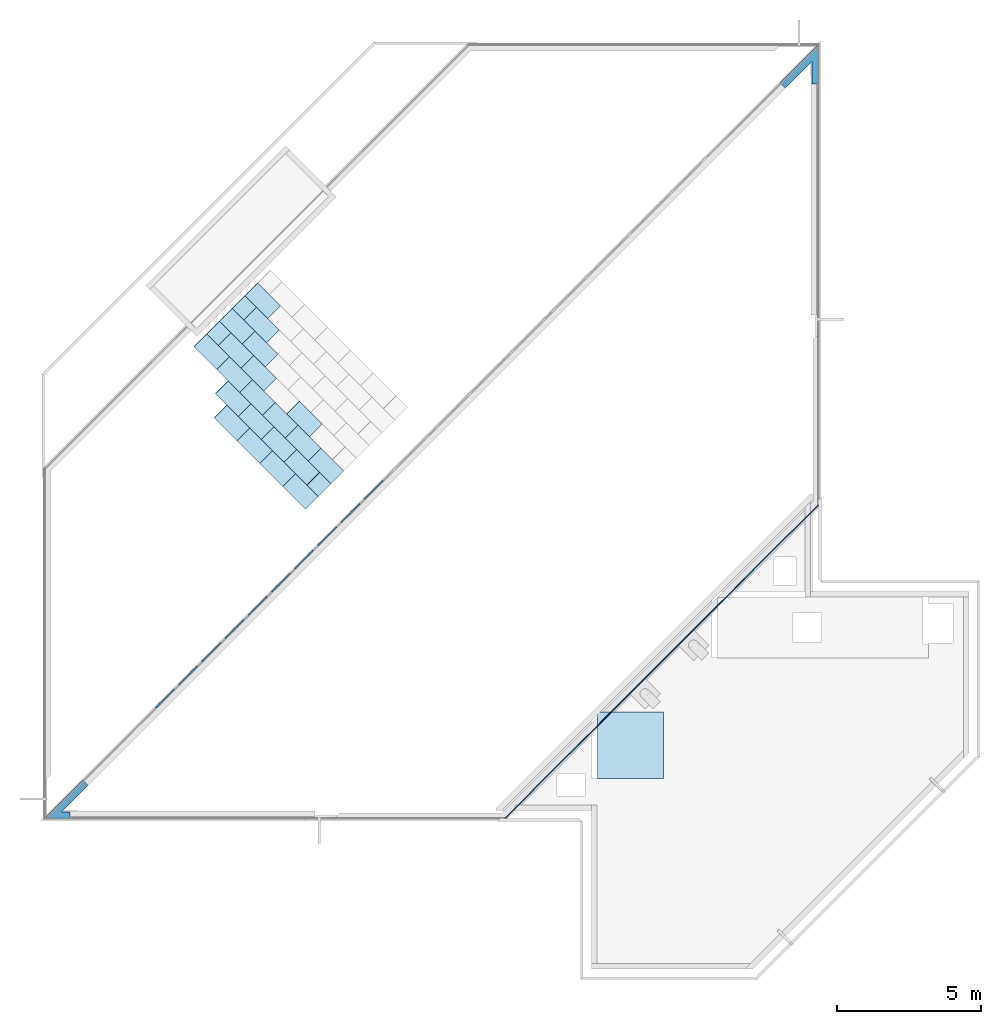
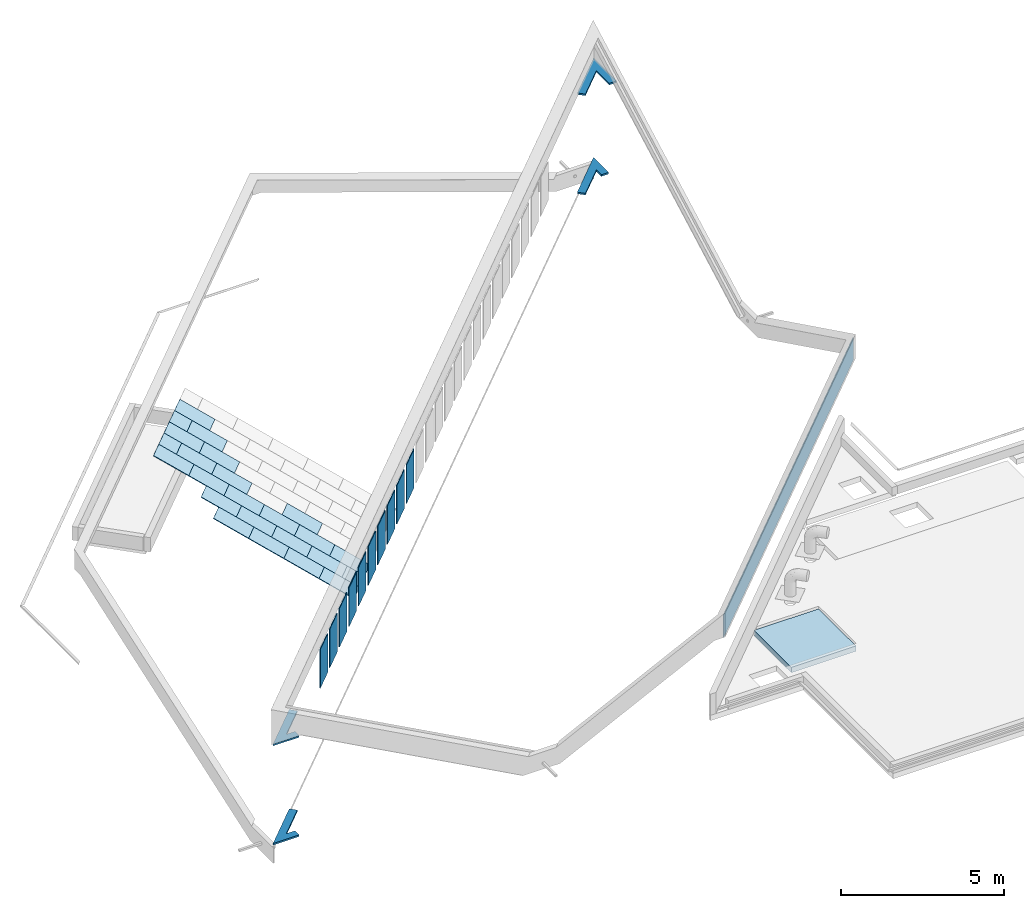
# One storey, part 1 of 8: 25 slabs, 11 plates, 2 members, 24 elements without a shape of their own.
"""IFC4X3_ADD2 building model written with IfcOpenShell, lengths in millimetres."""

from ifc_helpers import new_model, si_unit, direction, frame, frame_2d, origin_with_axes, place, context, subcontext, project, spatial, polyline, rectangle, outline, extrude, source, transform, mapped, material, type_object, type_shapes, element, aggregate, save


model = new_model("IFC4X3_ADD2")

# Units and contexts
model_context = context("Model", 3, precision=1e-05, world=origin_with_axes(), true_north=direction((0.0, 1.0)))
body_context = subcontext(model_context, "Body", "Model", "MODEL_VIEW")
ifc_project = project(units=[si_unit("LENGTHUNIT", "METRE", prefix="MILLI"), si_unit("AREAUNIT", "SQUARE_METRE"), si_unit("VOLUMEUNIT", "CUBIC_METRE"), si_unit("PLANEANGLEUNIT", "RADIAN"), si_unit("TIMEUNIT", "SECOND"), si_unit("MASSUNIT", "GRAM")], contexts=[model_context])

# Site, building, storey
site_placement = place(None, origin_with_axes())
site = spatial("IfcSite", under=ifc_project, at=site_placement, Name="Site", CompositionType="ELEMENT")
building_placement = place(site_placement, origin_with_axes())
building = spatial("IfcBuilding", under=site, at=building_placement, Name="IFC Building Story")
storey_placement = place(building_placement, frame((0.0, 0.0, 17050.0), z_axis=(0.0, 0.0, 1.0), x_axis=(1.0, 0.0, 0.0)))
storey = spatial("IfcBuildingStorey", under=building, at=storey_placement, Name="050", Elevation=17050.0)

# Members
ifc_material_1 = material(Name="BB_Schrijnwerk_Aluminium")
member_type_1 = type_object("IfcMemberType", Name="BB_Shed_Hoek02_BB_Shed_Hoek02", PredefinedType="NOTDEFINED")
shared_shape_1 = source(origin_with_axes(), body_context, "Body", "SweptSolid", [
    extrude(outline(polyline([(-901.3852176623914, -511.8379701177), (466.3454674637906, 855.892715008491), (648.7790170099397, 673.45916546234), (-277.5181185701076, -252.8379701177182), (31.88942587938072, -252.83797011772), (31.88942587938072, -511.8379701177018), (-901.3852176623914, -511.8379701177)])), frame((-38231.8894258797, 12701.8505894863, 21548.0), z_axis=(0.0, 0.0, 1.0), x_axis=(1.0, 0.0, 0.0)), (0.0, 0.0, 1.0), 61.9999999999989),
    extrude(outline(polyline([(-901.7387710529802, -511.7201189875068), (465.9919140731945, 856.0105661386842), (649.1325704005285, 672.8699098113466), (-276.4574583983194, -252.7201189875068), (31.53587248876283, -252.7201189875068), (31.53587248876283, -511.7201189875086), (-901.7387710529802, -511.7201189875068)])), frame((-38231.53587248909, 12701.7327383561, 17820.0), z_axis=(0.0, 0.0, 1.0), x_axis=(1.0, 0.0, 0.0)), (0.0, 0.0, 1.0), 62.0000000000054),
])
type_shapes(member_type_1, [shared_shape_1])
member_1_placement = place(storey_placement, frame((0.0, 0.0, -17050.0), z_axis=(0.0, 0.0, 1.0), x_axis=(1.0, 0.0, 0.0)))
element("IfcMember", 1, at=member_1_placement, inside=storey, type_object=member_type_1, material=ifc_material_1, Name="BB_Shed_Hoek02:BB_Shed_Hoek02", ObjectType="BB_Shed_Hoek02:BB_Shed_Hoek02", PredefinedType="MULLION", context=body_context, shape_type="MappedRepresentation", body=[
    mapped(shared_shape_1, transform((0.0, 0.0, 0.0))),
])
member_type_2 = type_object("IfcMemberType", Name="BB_Shed_Hoek1_BB_Shed_Hoek02", PredefinedType="NOTDEFINED")
shared_shape_2 = source(origin_with_axes(), body_context, "Body", "SweptSolid", [
    extrude(outline(polyline([(511.83797011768, -351.8894258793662), (252.8379701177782, -351.8894258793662), (252.8379701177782, 437.5181185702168), (-673.4591654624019, -488.7790170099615), (-855.892715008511, -306.3454674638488), (511.83797011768, 1061.385217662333), (511.83797011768, -351.8894258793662)])), frame((-12701.8505894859, 38071.8894258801, 21548.0), z_axis=(0.0, 0.0, 1.0), x_axis=(1.0, 0.0, 0.0)), (0.0, 0.0, 1.0), 61.99999999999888),
    extrude(outline(polyline([(511.7201189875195, -31.53587248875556), (252.7201189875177, -31.53587248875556), (252.7201189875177, 276.4574583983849), (-672.869909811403, -649.1325704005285), (-856.0105661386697, -465.99191407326), (511.7201189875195, 901.7387710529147), (511.7201189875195, -31.53587248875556)])), frame((-12701.7327383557, 38231.5358724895, 17820.0), z_axis=(0.0, 0.0, 1.0), x_axis=(1.0, 0.0, 0.0)), (0.0, 0.0, 1.0), 62.0000000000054),
])
type_shapes(member_type_2, [shared_shape_2])
member_2_placement = place(storey_placement, frame((0.0, 0.0, -17050.0), z_axis=(0.0, 0.0, 1.0), x_axis=(1.0, 0.0, 0.0)))
element("IfcMember", 2, at=member_2_placement, inside=storey, type_object=member_type_2, material=ifc_material_1, Name="BB_Shed_Hoek1:BB_Shed_Hoek02", ObjectType="BB_Shed_Hoek1:BB_Shed_Hoek02", PredefinedType="MULLION", context=body_context, shape_type="MappedRepresentation", body=[
    mapped(shared_shape_2, transform((0.0, 0.0, 0.0))),
])

# Slab
ifc_material_2 = material(Name="BB_Beton_Bestaand")
slab_type = type_object("IfcSlabType", Name="BB_Beton_Bestaand 200", PredefinedType="FLOOR", material=ifc_material_2)
slab_1_placement = place(storey_placement, frame((-19899.99999999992, 15914.99999999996, -350.0), z_axis=(0.0, 0.0, 1.0), x_axis=(0.0, -1.0, 0.0)))
element("IfcSlab", 3, at=slab_1_placement, inside=storey, type_object=slab_type, Name="Floor:BB_XX_Vloer uit beton, 200 mm", ObjectType="Floor:BB_XX_Vloer uit beton, 200 mm", PredefinedType="FLOOR", context=body_context, shape_type="SweptSolid", body=[
    extrude(rectangle(XDim=2299.99999999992, YDim=2299.99999999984, at=frame_2d((0.0, 0.0), x_axis=(-1.0, 0.0))), frame((1149.99999999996, 1149.99999999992, 0.0), z_axis=(0.0, 0.0, 1.0), x_axis=(1.0, 0.0, 0.0)), (0.0, 0.0, 1.0), 200.0),
])

# Plates
ifc_material_3 = material(Name="BB_Glas")
shared_shape_3 = source(origin_with_axes(), body_context, "Body", "SweptSolid", [
    extrude(rectangle(XDim=1459.000000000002, YDim=889.100000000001, at=frame_2d((0.0, 0.0), x_axis=(0.0, 1.0))), frame((0.0, 0.0, -28.0), z_axis=(0.0, 0.0, 1.0), x_axis=(1.0, 0.0, 0.0)), (0.0, 0.0, 1.0), 28.0),
])
for number, where, z_axis, x_axis in (
    (4, (-34899.746240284, 16374.0435479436, 3674.5), (0.7071067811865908, -0.7071067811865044, 0.0), (-0.7071067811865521, -0.707106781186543, 0.0)),
    (5, (-34094.2809058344, 17179.5088823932, 3674.5), (0.7071067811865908, -0.7071067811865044, 0.0), (-0.7071067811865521, -0.707106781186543, 0.0)),
    (6, (-33288.8155713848, 17984.9742168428, 3674.5), (0.7071067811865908, -0.7071067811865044, 0.0), (-0.7071067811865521, -0.707106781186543, 0.0)),
    (7, (-32483.3502369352, 18790.4395512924, 3674.5), (0.7071067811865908, -0.7071067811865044, 0.0), (-0.7071067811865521, -0.707106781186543, 0.0)),
    (8, (-31677.8849024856, 19595.904885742, 3674.5), (0.7071067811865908, -0.7071067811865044, 0.0), (-0.7071067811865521, -0.707106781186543, 0.0)),
    (9, (-30872.419568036, 20401.3702201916, 3674.5), (0.7071067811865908, -0.7071067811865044, 0.0), (-0.7071067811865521, -0.707106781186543, 0.0)),
    (10, (-30066.9542335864, 21206.8355546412, 3674.5), (0.7071067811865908, -0.7071067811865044, 0.0), (-0.7071067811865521, -0.707106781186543, 0.0)),
    (11, (-29261.4888991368, 22012.3008890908, 3674.5), (0.7071067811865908, -0.7071067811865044, 0.0), (-0.7071067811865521, -0.707106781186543, 0.0)),
    (12, (-28456.0235646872, 22817.7662235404, 3674.5), (0.7071067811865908, -0.7071067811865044, 0.0), (-0.7071067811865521, -0.707106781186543, 0.0)),
    (13, (-27650.5582302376, 23623.23155799, 3674.5), (0.7071067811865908, -0.7071067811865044, 0.0), (-0.7071067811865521, -0.707106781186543, 0.0)),
):
    element("IfcPlate", number, at=place(storey_placement, frame(where, z_axis=z_axis, x_axis=x_axis)), inside=storey, material=ifc_material_3, Name="BB_07.06_Buitenbeglazing, rechthoekig_GMO:07.06.41#01_Dubbele beglazing sheds, 28 mm", ObjectType="BB_07.06_Buitenbeglazing, rechthoekig_GMO:07.06.41#01_Dubbele beglazing sheds, 28 mm", PredefinedType="USERDEFINED", context=body_context, shape_type="MappedRepresentation", body=[
        mapped(shared_shape_3, transform((0.0, 0.0, 0.0))),
    ])
shared_shape_4 = source(origin_with_axes(), body_context, "Body", "SweptSolid", [
    extrude(outline(polyline([(7692.639370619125, -1.000000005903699), (-7692.639370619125, -0.999999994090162), (-7690.639370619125, 1.000000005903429), (7690.639370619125, 0.9999999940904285), (7692.639370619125, -1.000000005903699)])), frame((7729.408923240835, -12.99999999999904, 0.0), z_axis=(0.0, 0.0, 1.0), x_axis=(1.0, 0.0, 0.0)), (0.0, 0.0, 1.0), 839.999999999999),
    extrude(outline(polyline([(-7701.408923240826, 1.0000000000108), (7701.408923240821, 1.000000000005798), (7703.408923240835, -1.000000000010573), (-7703.408923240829, -1.000000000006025), (-7701.408923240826, 1.0000000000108)])), frame((7729.40892324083, 12.99999999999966, 0.0), z_axis=(0.0, 0.0, 1.0), x_axis=(1.0, 0.0, 0.0)), (0.0, 0.0, 1.0), 839.999999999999),
    extrude(outline(polyline([(-7724.580496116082, -11.99999999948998), (-7700.580496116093, 12.00000000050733), (7700.580496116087, 11.99999999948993), (7724.580496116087, -12.00000000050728), (-7724.580496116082, -11.99999999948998)])), frame((7729.408923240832, -1.624034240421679e-12, 0.0), z_axis=(0.0, 0.0, 1.0), x_axis=(1.0, 0.0, 0.0)), (0.0, 0.0, 1.0), 839.999999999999),
])
plate_placement = place(storey_placement, frame((-12201.1131244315, 23132.1354334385, 2953.0), z_axis=(0.0, 0.0, 1.0), x_axis=(-0.7071067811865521, -0.707106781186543, 0.0)))
element("IfcPlate", 14, at=plate_placement, inside=storey, Name="Basic Wall:BB_07.04.63#01_Aluminium sandwichpanelen, 28 mm", ObjectType="Basic Wall:BB_07.04.63#01_Aluminium sandwichpanelen, 28 mm", PredefinedType="USERDEFINED", context=body_context, shape_type="MappedRepresentation", body=[
    mapped(shared_shape_4, transform((0.0, 0.0, 0.0))),
])

# Roof, slab
roof_1_placement = place(storey_placement, frame((0.0, 0.0, -17050.0), z_axis=(0.0, 0.0, 1.0), x_axis=(1.0, 0.0, 0.0)))
roof_1 = element("IfcRoof", 15, at=roof_1_placement, inside=storey, Name="vezelcementplaat 1250 x 11:vezelcementplaat 1250 x 625", ObjectType="vezelcementplaat 1250 x 11:vezelcementplaat 1250 x 625", PredefinedType="SHED_ROOF")
slab_2_placement = place(roof_1_placement, frame((-32141.7569973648, 30373.99004439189, 20102.07951771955), z_axis=(0.3119702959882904, -0.3119702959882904, 0.8974124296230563), x_axis=(0.6345664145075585, -0.6345664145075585, -0.441192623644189)))
slab_2 = element("IfcSlab", 16, at=slab_2_placement, Name="vezelcementplaat 1250 x 11:vezelcementplaat 1250 x 625:1", ObjectType="vezelcementplaat 1250 x 11:vezelcementplaat 1250 x 625", PredefinedType="ROOF", context=body_context, shape_type="SweptSolid", body=[
    extrude(rectangle(XDim=1250.000000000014, YDim=625.000000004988, at=frame_2d((0.0, 0.0), x_axis=(-1.0, 0.0))), frame((381.6863360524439, 312.5000000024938, 494.9146803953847), z_axis=(0.0, 0.0, 1.0), x_axis=(1.0, 0.0, 0.0)), (0.0, 0.0, 1.0), 23.84980459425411),
])
aggregate(roof_1, [slab_2])

roof_2_placement = place(storey_placement, frame((0.0, 0.0, -17050.0), z_axis=(0.0, 0.0, 1.0), x_axis=(1.0, 0.0, 0.0)))
roof_2 = element("IfcRoof", 17, at=roof_2_placement, inside=storey, Name="vezelcementplaat 1250 x 17:vezelcementplaat 1250 x 625", ObjectType="vezelcementplaat 1250 x 17:vezelcementplaat 1250 x 625", PredefinedType="SHED_ROOF")
slab_3_placement = place(roof_2_placement, frame((-32186.9289361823, 29535.27850672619, 19826.21885949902), z_axis=(0.3119702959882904, -0.3119702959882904, 0.8974124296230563), x_axis=(0.6345664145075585, -0.6345664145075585, -0.441192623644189)))
slab_3 = element("IfcSlab", 18, at=slab_3_placement, Name="vezelcementplaat 1250 x 17:vezelcementplaat 1250 x 625:1", ObjectType="vezelcementplaat 1250 x 17:vezelcementplaat 1250 x 625", PredefinedType="ROOF", context=body_context, shape_type="SweptSolid", body=[
    extrude(rectangle(XDim=1250.000000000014, YDim=625.000000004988, at=frame_2d((0.0, 0.0), x_axis=(-1.0, 0.0))), frame((381.6863360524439, 312.5000000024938, 494.9146803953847), z_axis=(0.0, 0.0, 1.0), x_axis=(1.0, 0.0, 0.0)), (0.0, 0.0, 1.0), 23.84980459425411),
])
aggregate(roof_2, [slab_3])

roof_3_placement = place(storey_placement, frame((0.0, 0.0, -17050.0), z_axis=(0.0, 0.0, 1.0), x_axis=(1.0, 0.0, 0.0)))
roof_3 = element("IfcRoof", 19, at=roof_3_placement, inside=storey, Name="vezelcementplaat 1250 x 18:vezelcementplaat 1250 x 625", ObjectType="vezelcementplaat 1250 x 18:vezelcementplaat 1250 x 625", PredefinedType="SHED_ROOF")
slab_4_placement = place(roof_3_placement, frame((-32141.59120700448, 30373.82425403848, 20377.70963905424), z_axis=(0.3119702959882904, -0.3119702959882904, 0.8974124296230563), x_axis=(-0.7071067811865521, -0.707106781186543, 0.0)))
slab_4 = element("IfcSlab", 20, at=slab_4_placement, Name="vezelcementplaat 1250 x 18:vezelcementplaat 1250 x 625:1", ObjectType="vezelcementplaat 1250 x 18:vezelcementplaat 1250 x 625", PredefinedType="ROOF", context=body_context, shape_type="SweptSolid", body=[
    extrude(rectangle(XDim=625.0000000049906, YDim=625.0000000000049, at=frame_2d((0.0, 0.0), x_axis=(-1.0, 0.0))), frame((312.500000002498, 190.8431680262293, 247.4573401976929), z_axis=(0.0, 0.0, 1.0), x_axis=(1.0, 0.0, 0.0)), (0.0, 0.0, 1.0), 23.84980459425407),
])
aggregate(roof_3, [slab_4])

roof_4_placement = place(storey_placement, frame((0.0, 0.0, -17050.0), z_axis=(0.0, 0.0, 1.0), x_axis=(1.0, 0.0, 0.0)))
roof_4 = element("IfcRoof", 21, at=roof_4_placement, inside=storey, Name="vezelcementplaat 1250 x 23:vezelcementplaat 1250 x 625", ObjectType="vezelcementplaat 1250 x 23:vezelcementplaat 1250 x 625", PredefinedType="SHED_ROOF")
slab_5_placement = place(roof_4_placement, frame((-32232.4324557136, 28696.89854977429, 19550.58873816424), z_axis=(0.3119702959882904, -0.3119702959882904, 0.8974124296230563), x_axis=(0.6345664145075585, -0.6345664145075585, -0.441192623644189)))
slab_5 = element("IfcSlab", 22, at=slab_5_placement, Name="vezelcementplaat 1250 x 23:vezelcementplaat 1250 x 625:1", ObjectType="vezelcementplaat 1250 x 23:vezelcementplaat 1250 x 625", PredefinedType="ROOF", context=body_context, shape_type="SweptSolid", body=[
    extrude(rectangle(XDim=1250.000000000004, YDim=625.0000000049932, at=frame_2d((0.0, 0.0), x_axis=(-1.0, 0.0))), frame((381.6863360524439, 312.5000000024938, 494.9146803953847), z_axis=(0.0, 0.0, 1.0), x_axis=(1.0, 0.0, 0.0)), (0.0, 0.0, 1.0), 23.84980459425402),
])
aggregate(roof_4, [slab_5])

roof_5_placement = place(storey_placement, frame((0.0, 0.0, -17050.0), z_axis=(0.0, 0.0, 1.0), x_axis=(1.0, 0.0, 0.0)))
roof_5 = element("IfcRoof", 23, at=roof_5_placement, inside=storey, Name="vezelcementplaat 1250 x 24:vezelcementplaat 1250 x 625", ObjectType="vezelcementplaat 1250 x 24:vezelcementplaat 1250 x 625", PredefinedType="SHED_ROOF")
slab_6_placement = place(roof_5_placement, frame((-33025.640473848, 29490.10656790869, 20102.07951771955), z_axis=(0.3119702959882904, -0.3119702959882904, 0.8974124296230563), x_axis=(0.6345664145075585, -0.6345664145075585, -0.441192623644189)))
slab_6 = element("IfcSlab", 24, at=slab_6_placement, Name="vezelcementplaat 1250 x 24:vezelcementplaat 1250 x 625:1", ObjectType="vezelcementplaat 1250 x 24:vezelcementplaat 1250 x 625", PredefinedType="ROOF", context=body_context, shape_type="SweptSolid", body=[
    extrude(rectangle(XDim=1250.000000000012, YDim=625.0000000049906, at=frame_2d((0.0, 0.0), x_axis=(-1.0, 0.0))), frame((381.6863360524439, 312.5000000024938, 494.9146803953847), z_axis=(0.0, 0.0, 1.0), x_axis=(1.0, 0.0, 0.0)), (0.0, 0.0, 1.0), 23.84980459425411),
])
aggregate(roof_5, [slab_6])

roof_6_placement = place(storey_placement, frame((0.0, 0.0, -17050.0), z_axis=(0.0, 0.0, 1.0), x_axis=(1.0, 0.0, 0.0)))
roof_6 = element("IfcRoof", 25, at=roof_6_placement, inside=storey, Name="vezelcementplaat 1250 x 27:vezelcementplaat 1250 x 625", ObjectType="vezelcementplaat 1250 x 27:vezelcementplaat 1250 x 625", PredefinedType="SHED_ROOF")
slab_7_placement = place(roof_6_placement, frame((-30691.1883582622, 26271.77097583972, 18171.86178927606), z_axis=(0.3119702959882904, -0.3119702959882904, 0.8974124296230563), x_axis=(0.6345664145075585, -0.6345664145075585, -0.441192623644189)))
slab_7 = element("IfcSlab", 26, at=slab_7_placement, Name="vezelcementplaat 1250 x 27:vezelcementplaat 1250 x 625:1", ObjectType="vezelcementplaat 1250 x 27:vezelcementplaat 1250 x 625", PredefinedType="ROOF", context=body_context, shape_type="SweptSolid", body=[
    extrude(rectangle(XDim=1249.738734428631, YDim=625.0000000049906, at=frame_2d((0.0, 0.0), x_axis=(-1.0, 0.0))), frame((381.606558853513, 312.5000000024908, 494.8112370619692), z_axis=(0.0, 0.0, 1.0), x_axis=(1.0, 0.0, 0.0)), (0.0, 0.0, 1.0), 23.84980459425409),
])
aggregate(roof_6, [slab_7])

roof_7_placement = place(storey_placement, frame((0.0, 0.0, -17050.0), z_axis=(0.0, 0.0, 1.0), x_axis=(1.0, 0.0, 0.0)))
roof_7 = element("IfcRoof", 27, at=roof_7_placement, inside=storey, Name="vezelcementplaat 1250 x 29:vezelcementplaat 1250 x 625", ObjectType="vezelcementplaat 1250 x 29:vezelcementplaat 1250 x 625", PredefinedType="SHED_ROOF")
slab_8_placement = place(roof_7_placement, frame((-32277.6043945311, 27858.18701210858, 19274.72807994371), z_axis=(0.3119702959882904, -0.3119702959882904, 0.8974124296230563), x_axis=(0.6345664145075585, -0.6345664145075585, -0.441192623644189)))
slab_8 = element("IfcSlab", 28, at=slab_8_placement, Name="vezelcementplaat 1250 x 29:vezelcementplaat 1250 x 625:1", ObjectType="vezelcementplaat 1250 x 29:vezelcementplaat 1250 x 625", PredefinedType="ROOF", context=body_context, shape_type="SweptSolid", body=[
    extrude(rectangle(XDim=1250.000000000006, YDim=625.0000000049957, at=frame_2d((0.0, 0.0), x_axis=(-1.0, 0.0))), frame((381.6863360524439, 312.5000000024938, 494.9146803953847), z_axis=(0.0, 0.0, 1.0), x_axis=(1.0, 0.0, 0.0)), (0.0, 0.0, 1.0), 23.84980459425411),
])
aggregate(roof_7, [slab_8])

roof_8_placement = place(storey_placement, frame((0.0, 0.0, -17050.0), z_axis=(0.0, 0.0, 1.0), x_axis=(1.0, 0.0, 0.0)))
roof_8 = element("IfcRoof", 29, at=roof_8_placement, inside=storey, Name="vezelcementplaat 1250 x 30:vezelcementplaat 1250 x 625", ObjectType="vezelcementplaat 1250 x 30:vezelcementplaat 1250 x 625", PredefinedType="SHED_ROOF")
slab_9_placement = place(roof_8_placement, frame((-33070.8124126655, 28651.39503024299, 19826.21885949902), z_axis=(0.3119702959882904, -0.3119702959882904, 0.8974124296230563), x_axis=(0.6345664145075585, -0.6345664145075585, -0.441192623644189)))
slab_9 = element("IfcSlab", 30, at=slab_9_placement, Name="vezelcementplaat 1250 x 30:vezelcementplaat 1250 x 625:1", ObjectType="vezelcementplaat 1250 x 30:vezelcementplaat 1250 x 625", PredefinedType="ROOF", context=body_context, shape_type="SweptSolid", body=[
    extrude(rectangle(XDim=1250.000000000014, YDim=625.000000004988, at=frame_2d((0.0, 0.0), x_axis=(-1.0, 0.0))), frame((381.6863360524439, 312.5000000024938, 494.9146803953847), z_axis=(0.0, 0.0, 1.0), x_axis=(1.0, 0.0, 0.0)), (0.0, 0.0, 1.0), 23.84980459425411),
])
aggregate(roof_8, [slab_9])

roof_9_placement = place(storey_placement, frame((0.0, 0.0, -17050.0), z_axis=(0.0, 0.0, 1.0), x_axis=(1.0, 0.0, 0.0)))
roof_9 = element("IfcRoof", 31, at=roof_9_placement, inside=storey, Name="vezelcementplaat 1250 x 31:vezelcementplaat 1250 x 625", ObjectType="vezelcementplaat 1250 x 31:vezelcementplaat 1250 x 625", PredefinedType="SHED_ROOF")
slab_10_placement = place(roof_9_placement, frame((-33025.47468348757, 29489.94077755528, 20377.70963905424), z_axis=(0.3119702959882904, -0.3119702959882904, 0.8974124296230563), x_axis=(-0.7071067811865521, -0.707106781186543, 0.0)))
slab_10 = element("IfcSlab", 32, at=slab_10_placement, Name="vezelcementplaat 1250 x 31:vezelcementplaat 1250 x 625:1", ObjectType="vezelcementplaat 1250 x 31:vezelcementplaat 1250 x 625", PredefinedType="ROOF", context=body_context, shape_type="SweptSolid", body=[
    extrude(rectangle(XDim=625.0000000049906, YDim=625.0000000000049, at=frame_2d((0.0, 0.0), x_axis=(-1.0, 0.0))), frame((312.500000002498, 190.8431680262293, 247.4573401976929), z_axis=(0.0, 0.0, 1.0), x_axis=(1.0, 0.0, 0.0)), (0.0, 0.0, 1.0), 23.84980459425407),
])
aggregate(roof_9, [slab_10])

roof_10_placement = place(storey_placement, frame((0.0, 0.0, -17050.0), z_axis=(0.0, 0.0, 1.0), x_axis=(1.0, 0.0, 0.0)))
roof_10 = element("IfcRoof", 33, at=roof_10_placement, inside=storey, Name="vezelcementplaat 1250 x 33:vezelcementplaat 1250 x 625", ObjectType="vezelcementplaat 1250 x 33:vezelcementplaat 1250 x 625", PredefinedType="SHED_ROOF")
slab_11_placement = place(roof_10_placement, frame((-30736.8576681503, 25433.55680924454, 17896.11639949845), z_axis=(0.3119702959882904, -0.3119702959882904, 0.8974124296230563), x_axis=(0.6345664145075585, -0.6345664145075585, -0.441192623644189)))
slab_11 = element("IfcSlab", 34, at=slab_11_placement, Name="vezelcementplaat 1250 x 33:vezelcementplaat 1250 x 625:1", ObjectType="vezelcementplaat 1250 x 33:vezelcementplaat 1250 x 625", PredefinedType="ROOF", context=body_context, shape_type="SweptSolid", body=[
    extrude(rectangle(XDim=1250.261265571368, YDim=625.0000000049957, at=frame_2d((0.0, 0.0), x_axis=(-1.0, 0.0))), frame((381.7661132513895, 312.5000000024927, 495.0181237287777), z_axis=(0.0, 0.0, 1.0), x_axis=(1.0, 0.0, 0.0)), (0.0, 0.0, 1.0), 23.84980459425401),
])
aggregate(roof_10, [slab_11])

roof_11_placement = place(storey_placement, frame((0.0, 0.0, -17050.0), z_axis=(0.0, 0.0, 1.0), x_axis=(1.0, 0.0, 0.0)))
roof_11 = element("IfcRoof", 35, at=roof_11_placement, inside=storey, Name="vezelcementplaat 1250 x 34:vezelcementplaat 1250 x 625", ObjectType="vezelcementplaat 1250 x 34:vezelcementplaat 1250 x 625", PredefinedType="SHED_ROOF")
slab_12_placement = place(roof_11_placement, frame((-31529.8998959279, 26226.59903702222, 18447.72244749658), z_axis=(0.3119702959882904, -0.3119702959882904, 0.8974124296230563), x_axis=(0.6345664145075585, -0.6345664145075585, -0.441192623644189)))
slab_12 = element("IfcSlab", 36, at=slab_12_placement, Name="vezelcementplaat 1250 x 34:vezelcementplaat 1250 x 625:1", ObjectType="vezelcementplaat 1250 x 34:vezelcementplaat 1250 x 625", PredefinedType="ROOF", context=body_context, shape_type="SweptSolid", body=[
    extrude(rectangle(XDim=1249.738734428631, YDim=625.0000000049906, at=frame_2d((0.0, 0.0), x_axis=(-1.0, 0.0))), frame((381.606558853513, 312.5000000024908, 494.8112370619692), z_axis=(0.0, 0.0, 1.0), x_axis=(1.0, 0.0, 0.0)), (0.0, 0.0, 1.0), 23.84980459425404),
])
aggregate(roof_11, [slab_12])

roof_12_placement = place(storey_placement, frame((0.0, 0.0, -17050.0), z_axis=(0.0, 0.0, 1.0), x_axis=(1.0, 0.0, 0.0)))
roof_12 = element("IfcRoof", 37, at=roof_12_placement, inside=storey, Name="vezelcementplaat 1250 x 35:vezelcementplaat 1250 x 625", ObjectType="vezelcementplaat 1250 x 35:vezelcementplaat 1250 x 625", PredefinedType="SHED_ROOF")
slab_13_placement = place(roof_12_placement, frame((-32323.1079140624, 27019.80705515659, 18999.09795860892), z_axis=(0.3119702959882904, -0.3119702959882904, 0.8974124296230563), x_axis=(0.6345664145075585, -0.6345664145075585, -0.441192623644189)))
slab_13 = element("IfcSlab", 38, at=slab_13_placement, Name="vezelcementplaat 1250 x 35:vezelcementplaat 1250 x 625:1", ObjectType="vezelcementplaat 1250 x 35:vezelcementplaat 1250 x 625", PredefinedType="ROOF", context=body_context, shape_type="SweptSolid", body=[
    extrude(rectangle(XDim=1250.000000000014, YDim=625.0000000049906, at=frame_2d((0.0, 0.0), x_axis=(-1.0, 0.0))), frame((381.6863360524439, 312.5000000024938, 494.9146803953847), z_axis=(0.0, 0.0, 1.0), x_axis=(1.0, 0.0, 0.0)), (0.0, 0.0, 1.0), 23.84980459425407),
])
aggregate(roof_12, [slab_13])

roof_13_placement = place(storey_placement, frame((0.0, 0.0, -17050.0), z_axis=(0.0, 0.0, 1.0), x_axis=(1.0, 0.0, 0.0)))
roof_13 = element("IfcRoof", 39, at=roof_13_placement, inside=storey, Name="vezelcementplaat 1250 x 36:vezelcementplaat 1250 x 625", ObjectType="vezelcementplaat 1250 x 36:vezelcementplaat 1250 x 625", PredefinedType="SHED_ROOF")
slab_14_placement = place(roof_13_placement, frame((-33116.31593219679, 27813.01507329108, 19550.58873816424), z_axis=(0.3119702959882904, -0.3119702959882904, 0.8974124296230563), x_axis=(0.6345664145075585, -0.6345664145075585, -0.441192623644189)))
slab_14 = element("IfcSlab", 40, at=slab_14_placement, Name="vezelcementplaat 1250 x 36:vezelcementplaat 1250 x 625:1", ObjectType="vezelcementplaat 1250 x 36:vezelcementplaat 1250 x 625", PredefinedType="ROOF", context=body_context, shape_type="SweptSolid", body=[
    extrude(rectangle(XDim=1250.000000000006, YDim=625.0000000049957, at=frame_2d((0.0, 0.0), x_axis=(-1.0, 0.0))), frame((381.6863360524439, 312.5000000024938, 494.9146803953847), z_axis=(0.0, 0.0, 1.0), x_axis=(1.0, 0.0, 0.0)), (0.0, 0.0, 1.0), 23.84980459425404),
])
aggregate(roof_13, [slab_14])

roof_14_placement = place(storey_placement, frame((0.0, 0.0, -17050.0), z_axis=(0.0, 0.0, 1.0), x_axis=(1.0, 0.0, 0.0)))
roof_14 = element("IfcRoof", 41, at=roof_14_placement, inside=storey, Name="vezelcementplaat 1250 x 37:vezelcementplaat 1250 x 625", ObjectType="vezelcementplaat 1250 x 37:vezelcementplaat 1250 x 625", PredefinedType="SHED_ROOF")
slab_15_placement = place(roof_14_placement, frame((-33909.5239503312, 28606.22309142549, 20102.07951771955), z_axis=(0.3119702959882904, -0.3119702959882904, 0.8974124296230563), x_axis=(0.6345664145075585, -0.6345664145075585, -0.441192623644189)))
slab_15 = element("IfcSlab", 42, at=slab_15_placement, Name="vezelcementplaat 1250 x 37:vezelcementplaat 1250 x 625:1", ObjectType="vezelcementplaat 1250 x 37:vezelcementplaat 1250 x 625", PredefinedType="ROOF", context=body_context, shape_type="SweptSolid", body=[
    extrude(rectangle(XDim=1250.000000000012, YDim=625.0000000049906, at=frame_2d((0.0, 0.0), x_axis=(-1.0, 0.0))), frame((381.6863360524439, 312.5000000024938, 494.9146803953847), z_axis=(0.0, 0.0, 1.0), x_axis=(1.0, 0.0, 0.0)), (0.0, 0.0, 1.0), 23.84980459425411),
])
aggregate(roof_14, [slab_15])

roof_15_placement = place(storey_placement, frame((0.0, 0.0, -17050.0), z_axis=(0.0, 0.0, 1.0), x_axis=(1.0, 0.0, 0.0)))
roof_15 = element("IfcRoof", 43, at=roof_15_placement, inside=storey, Name="vezelcementplaat 1250 x 38:vezelcementplaat 1250 x 625", ObjectType="vezelcementplaat 1250 x 38:vezelcementplaat 1250 x 625", PredefinedType="SHED_ROOF")
slab_16_placement = place(roof_15_placement, frame((-29943.6496500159, 24640.34879111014, 17344.62561994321), z_axis=(0.3119702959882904, -0.3119702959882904, 0.8974124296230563), x_axis=(0.6345664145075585, -0.6345664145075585, -0.441192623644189)))
slab_16 = element("IfcSlab", 44, at=slab_16_placement, Name="vezelcementplaat 1250 x 38:vezelcementplaat 1250 x 625:1", ObjectType="vezelcementplaat 1250 x 38:vezelcementplaat 1250 x 625", PredefinedType="ROOF", context=body_context, shape_type="SweptSolid", body=[
    extrude(rectangle(XDim=1250.261265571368, YDim=625.0000000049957, at=frame_2d((0.0, 0.0), x_axis=(-1.0, 0.0))), frame((381.7661132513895, 312.5000000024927, 495.0181237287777), z_axis=(0.0, 0.0, 1.0), x_axis=(1.0, 0.0, 0.0)), (0.0, 0.0, 1.0), 23.84980459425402),
])
aggregate(roof_15, [slab_16])

roof_16_placement = place(storey_placement, frame((0.0, 0.0, -17050.0), z_axis=(0.0, 0.0, 1.0), x_axis=(1.0, 0.0, 0.0)))
roof_16 = element("IfcRoof", 45, at=roof_16_placement, inside=storey, Name="vezelcementplaat 1250 x 39:vezelcementplaat 1250 x 625", ObjectType="vezelcementplaat 1250 x 39:vezelcementplaat 1250 x 625", PredefinedType="SHED_ROOF")
slab_17_placement = place(roof_16_placement, frame((-30782.0296069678, 24594.84527157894, 17620.25574127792), z_axis=(0.3119702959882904, -0.3119702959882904, 0.8974124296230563), x_axis=(0.6345664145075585, -0.6345664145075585, -0.441192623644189)))
slab_17 = element("IfcSlab", 46, at=slab_17_placement, Name="vezelcementplaat 1250 x 39:vezelcementplaat 1250 x 625:1", ObjectType="vezelcementplaat 1250 x 39:vezelcementplaat 1250 x 625", PredefinedType="ROOF", context=body_context, shape_type="SweptSolid", body=[
    extrude(rectangle(XDim=1250.261265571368, YDim=625.0000000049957, at=frame_2d((0.0, 0.0), x_axis=(-1.0, 0.0))), frame((381.7661132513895, 312.5000000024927, 495.0181237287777), z_axis=(0.0, 0.0, 1.0), x_axis=(1.0, 0.0, 0.0)), (0.0, 0.0, 1.0), 23.84980459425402),
])
aggregate(roof_16, [slab_17])

roof_17_placement = place(storey_placement, frame((0.0, 0.0, -17050.0), z_axis=(0.0, 0.0, 1.0), x_axis=(1.0, 0.0, 0.0)))
roof_17 = element("IfcRoof", 47, at=roof_17_placement, inside=storey, Name="vezelcementplaat 1250 x 40:vezelcementplaat 1250 x 625", ObjectType="vezelcementplaat 1250 x 40:vezelcementplaat 1250 x 625", PredefinedType="SHED_ROOF")
slab_18_placement = place(roof_17_placement, frame((-31575.0718347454, 25387.88749935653, 18171.86178927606), z_axis=(0.3119702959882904, -0.3119702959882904, 0.8974124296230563), x_axis=(0.6345664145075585, -0.6345664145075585, -0.441192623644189)))
slab_18 = element("IfcSlab", 48, at=slab_18_placement, Name="vezelcementplaat 1250 x 40:vezelcementplaat 1250 x 625:1", ObjectType="vezelcementplaat 1250 x 40:vezelcementplaat 1250 x 625", PredefinedType="ROOF", context=body_context, shape_type="SweptSolid", body=[
    extrude(rectangle(XDim=1249.738734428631, YDim=625.0000000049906, at=frame_2d((0.0, 0.0), x_axis=(-1.0, 0.0))), frame((381.606558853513, 312.5000000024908, 494.8112370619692), z_axis=(0.0, 0.0, 1.0), x_axis=(1.0, 0.0, 0.0)), (0.0, 0.0, 1.0), 23.84980459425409),
])
aggregate(roof_17, [slab_18])

roof_18_placement = place(storey_placement, frame((0.0, 0.0, -17050.0), z_axis=(0.0, 0.0, 1.0), x_axis=(1.0, 0.0, 0.0)))
roof_18 = element("IfcRoof", 49, at=roof_18_placement, inside=storey, Name="vezelcementplaat 1250 x 41:vezelcementplaat 1250 x 625", ObjectType="vezelcementplaat 1250 x 41:vezelcementplaat 1250 x 625", PredefinedType="SHED_ROOF")
slab_19_placement = place(roof_18_placement, frame((-32368.2798528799, 26181.09551749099, 18723.23730038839), z_axis=(0.3119702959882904, -0.3119702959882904, 0.8974124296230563), x_axis=(0.6345664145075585, -0.6345664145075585, -0.441192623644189)))
slab_19 = element("IfcSlab", 50, at=slab_19_placement, Name="vezelcementplaat 1250 x 41:vezelcementplaat 1250 x 625:1", ObjectType="vezelcementplaat 1250 x 41:vezelcementplaat 1250 x 625", PredefinedType="ROOF", context=body_context, shape_type="SweptSolid", body=[
    extrude(rectangle(XDim=1250.000000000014, YDim=625.0000000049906, at=frame_2d((0.0, 0.0), x_axis=(-1.0, 0.0))), frame((381.6863360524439, 312.5000000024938, 494.9146803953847), z_axis=(0.0, 0.0, 1.0), x_axis=(1.0, 0.0, 0.0)), (0.0, 0.0, 1.0), 23.84980459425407),
])
aggregate(roof_18, [slab_19])

roof_19_placement = place(storey_placement, frame((0.0, 0.0, -17050.0), z_axis=(0.0, 0.0, 1.0), x_axis=(1.0, 0.0, 0.0)))
roof_19 = element("IfcRoof", 51, at=roof_19_placement, inside=storey, Name="vezelcementplaat 1250 x 42:vezelcementplaat 1250 x 625", ObjectType="vezelcementplaat 1250 x 42:vezelcementplaat 1250 x 625", PredefinedType="SHED_ROOF")
slab_20_placement = place(roof_19_placement, frame((-33161.4878710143, 26974.30353562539, 19274.72807994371), z_axis=(0.3119702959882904, -0.3119702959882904, 0.8974124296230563), x_axis=(0.6345664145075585, -0.6345664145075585, -0.441192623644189)))
slab_20 = element("IfcSlab", 52, at=slab_20_placement, Name="vezelcementplaat 1250 x 42:vezelcementplaat 1250 x 625:1", ObjectType="vezelcementplaat 1250 x 42:vezelcementplaat 1250 x 625", PredefinedType="ROOF", context=body_context, shape_type="SweptSolid", body=[
    extrude(rectangle(XDim=1250.000000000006, YDim=625.0000000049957, at=frame_2d((0.0, 0.0), x_axis=(-1.0, 0.0))), frame((381.6863360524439, 312.5000000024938, 494.9146803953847), z_axis=(0.0, 0.0, 1.0), x_axis=(1.0, 0.0, 0.0)), (0.0, 0.0, 1.0), 23.84980459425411),
])
aggregate(roof_19, [slab_20])

roof_20_placement = place(storey_placement, frame((0.0, 0.0, -17050.0), z_axis=(0.0, 0.0, 1.0), x_axis=(1.0, 0.0, 0.0)))
roof_20 = element("IfcRoof", 53, at=roof_20_placement, inside=storey, Name="vezelcementplaat 1250 x 45:vezelcementplaat 1250 x 625", ObjectType="vezelcementplaat 1250 x 45:vezelcementplaat 1250 x 625", PredefinedType="SHED_ROOF")
slab_21_placement = place(roof_20_placement, frame((-29546.87985058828, 24243.57899168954, 17344.51035150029), z_axis=(0.3119702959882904, -0.3119702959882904, 0.8974124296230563), x_axis=(-0.7071067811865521, -0.707106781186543, 0.0)))
slab_21 = element("IfcSlab", 54, at=slab_21_placement, Name="vezelcementplaat 1250 x 45:vezelcementplaat 1250 x 625:1", ObjectType="vezelcementplaat 1250 x 45:vezelcementplaat 1250 x 625", PredefinedType="ROOF", context=body_context, shape_type="SweptSolid", body=[
    extrude(rectangle(XDim=625.2612655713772, YDim=625.0000000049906, at=frame_2d((0.0, 0.0), x_axis=(0.0, -1.0))), frame((312.5000000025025, 190.9229452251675, 247.560783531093), z_axis=(0.0, 0.0, 1.0), x_axis=(1.0, 0.0, 0.0)), (0.0, 0.0, 1.0), 23.84980459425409),
])
aggregate(roof_20, [slab_21])

roof_21_placement = place(storey_placement, frame((0.0, 0.0, -17050.0), z_axis=(0.0, 0.0, 1.0), x_axis=(1.0, 0.0, 0.0)))
roof_21 = element("IfcRoof", 55, at=roof_21_placement, inside=storey, Name="vezelcementplaat 1250 x 46:vezelcementplaat 1250 x 625", ObjectType="vezelcementplaat 1250 x 46:vezelcementplaat 1250 x 625", PredefinedType="SHED_ROOF")
slab_22_placement = place(roof_21_placement, frame((-31620.7411446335, 24549.67333276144, 17896.11639949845), z_axis=(0.3119702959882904, -0.3119702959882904, 0.8974124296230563), x_axis=(0.6345664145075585, -0.6345664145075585, -0.441192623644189)))
slab_22 = element("IfcSlab", 56, at=slab_22_placement, Name="vezelcementplaat 1250 x 46:vezelcementplaat 1250 x 625:1", ObjectType="vezelcementplaat 1250 x 46:vezelcementplaat 1250 x 625", PredefinedType="ROOF", context=body_context, shape_type="SweptSolid", body=[
    extrude(rectangle(XDim=1250.261265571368, YDim=625.0000000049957, at=frame_2d((0.0, 0.0), x_axis=(-1.0, 0.0))), frame((381.7661132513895, 312.5000000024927, 495.0181237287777), z_axis=(0.0, 0.0, 1.0), x_axis=(1.0, 0.0, 0.0)), (0.0, 0.0, 1.0), 23.84980459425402),
])
aggregate(roof_21, [slab_22])

roof_22_placement = place(storey_placement, frame((0.0, 0.0, -17050.0), z_axis=(0.0, 0.0, 1.0), x_axis=(1.0, 0.0, 0.0)))
roof_22 = element("IfcRoof", 57, at=roof_22_placement, inside=storey, Name="vezelcementplaat 1250 x 47:vezelcementplaat 1250 x 625", ObjectType="vezelcementplaat 1250 x 47:vezelcementplaat 1250 x 625", PredefinedType="SHED_ROOF")
slab_23_placement = place(roof_22_placement, frame((-32413.7833724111, 25342.71556053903, 18447.72244749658), z_axis=(0.3119702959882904, -0.3119702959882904, 0.8974124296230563), x_axis=(0.6345664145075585, -0.6345664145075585, -0.441192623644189)))
slab_23 = element("IfcSlab", 58, at=slab_23_placement, Name="vezelcementplaat 1250 x 47:vezelcementplaat 1250 x 625:1", ObjectType="vezelcementplaat 1250 x 47:vezelcementplaat 1250 x 625", PredefinedType="ROOF", context=body_context, shape_type="SweptSolid", body=[
    extrude(rectangle(XDim=1249.738734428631, YDim=625.0000000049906, at=frame_2d((0.0, 0.0), x_axis=(-1.0, 0.0))), frame((381.606558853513, 312.5000000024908, 494.8112370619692), z_axis=(0.0, 0.0, 1.0), x_axis=(1.0, 0.0, 0.0)), (0.0, 0.0, 1.0), 23.84980459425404),
])
aggregate(roof_22, [slab_23])

roof_23_placement = place(storey_placement, frame((0.0, 0.0, -17050.0), z_axis=(0.0, 0.0, 1.0), x_axis=(1.0, 0.0, 0.0)))
roof_23 = element("IfcRoof", 59, at=roof_23_placement, inside=storey, Name="vezelcementplaat 1250 x 48:vezelcementplaat 1250 x 625", ObjectType="vezelcementplaat 1250 x 48:vezelcementplaat 1250 x 625", PredefinedType="SHED_ROOF")
slab_24_placement = place(roof_23_placement, frame((-33206.9913905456, 26135.92357867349, 18999.09795860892), z_axis=(0.3119702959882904, -0.3119702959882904, 0.8974124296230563), x_axis=(0.6345664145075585, -0.6345664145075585, -0.441192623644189)))
slab_24 = element("IfcSlab", 60, at=slab_24_placement, Name="vezelcementplaat 1250 x 48:vezelcementplaat 1250 x 625:1", ObjectType="vezelcementplaat 1250 x 48:vezelcementplaat 1250 x 625", PredefinedType="ROOF", context=body_context, shape_type="SweptSolid", body=[
    extrude(rectangle(XDim=1250.000000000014, YDim=625.0000000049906, at=frame_2d((0.0, 0.0), x_axis=(-1.0, 0.0))), frame((381.6863360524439, 312.5000000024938, 494.9146803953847), z_axis=(0.0, 0.0, 1.0), x_axis=(1.0, 0.0, 0.0)), (0.0, 0.0, 1.0), 23.84980459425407),
])
aggregate(roof_23, [slab_24])

roof_24_placement = place(storey_placement, frame((0.0, 0.0, -17050.0), z_axis=(0.0, 0.0, 1.0), x_axis=(1.0, 0.0, 0.0)))
roof_24 = element("IfcRoof", 61, at=roof_24_placement, inside=storey, Name="vezelcementplaat 1250 x 51:vezelcementplaat 1250 x 625", ObjectType="vezelcementplaat 1250 x 51:vezelcementplaat 1250 x 625", PredefinedType="SHED_ROOF")
slab_25_placement = place(roof_24_placement, frame((-30827.5331264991, 23756.46531462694, 17344.62561994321), z_axis=(0.3119702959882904, -0.3119702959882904, 0.8974124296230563), x_axis=(0.6345664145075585, -0.6345664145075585, -0.441192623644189)))
slab_25 = element("IfcSlab", 62, at=slab_25_placement, Name="vezelcementplaat 1250 x 51:vezelcementplaat 1250 x 625:1", ObjectType="vezelcementplaat 1250 x 51:vezelcementplaat 1250 x 625", PredefinedType="ROOF", context=body_context, shape_type="SweptSolid", body=[
    extrude(rectangle(XDim=1250.261265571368, YDim=625.0000000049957, at=frame_2d((0.0, 0.0), x_axis=(-1.0, 0.0))), frame((381.7661132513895, 312.5000000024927, 495.0181237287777), z_axis=(0.0, 0.0, 1.0), x_axis=(1.0, 0.0, 0.0)), (0.0, 0.0, 1.0), 23.84980459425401),
])
aggregate(roof_24, [slab_25])

save(model, "model.ifc")
